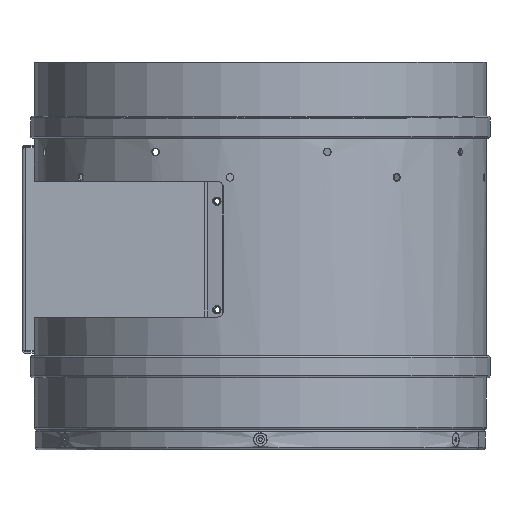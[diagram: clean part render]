
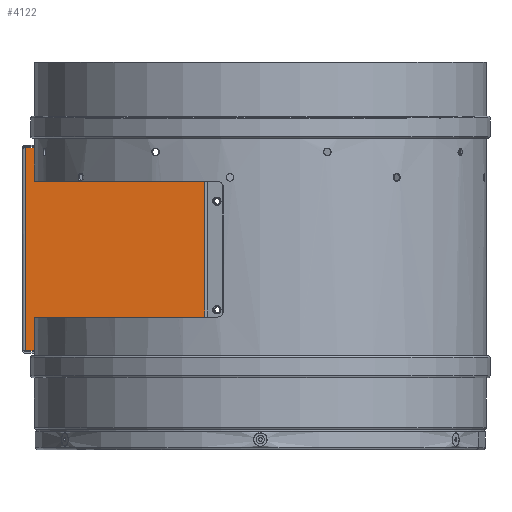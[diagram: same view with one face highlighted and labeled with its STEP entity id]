
A CAD part, left-side view. The second image highlights one B-rep face of the part: STEP entity #4122.
In plain terms, the highlighted planar face has unit normal (-1, 0, 0).
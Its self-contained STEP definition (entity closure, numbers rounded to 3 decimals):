
#1195 = DIRECTION ( 'NONE',  ( 0., 0., 1. ) ) ;
#1196 = CARTESIAN_POINT ( 'NONE',  ( -146.154, 125., -1278.722 ) ) ;
#1197 = DIRECTION ( 'NONE',  ( 0., -1., 0. ) ) ;
#1198 = DIRECTION ( 'NONE',  ( 0., 1., 0. ) ) ;
#1199 = DIRECTION ( 'NONE',  ( 0., 0., 1. ) ) ;
#1201 = CARTESIAN_POINT ( 'NONE',  ( -146.154, 129.9, -1278.722 ) ) ;
#1202 = DIRECTION ( 'NONE',  ( 0., 1., 0. ) ) ;
#1203 = CARTESIAN_POINT ( 'NONE',  ( -146.154, 30.77, -33.722 ) ) ;
#1207 = CARTESIAN_POINT ( 'NONE',  ( -146.154, 125., -52.422 ) ) ;
#1208 = CARTESIAN_POINT ( 'NONE',  ( -146.154, 125., 59.978 ) ) ;
#1212 = DIRECTION ( 'NONE',  ( 0., 0., -1. ) ) ;
#1213 = CARTESIAN_POINT ( 'NONE',  ( -146.154, 30.77, 41.278 ) ) ;
#1426 = AXIS2_PLACEMENT_3D ( 'NONE', #12834, #11787, #11788 ) ;
#2101 = EDGE_CURVE ( 'NONE', #5656, #8735, #11386, .T. ) ;
#2103 = EDGE_CURVE ( 'NONE', #8745, #5656, #11392, .T. ) ;
#2475 = LINE ( 'NONE', #1207, #2488 ) ;
#2480 = LINE ( 'NONE', #1213, #2482 ) ;
#2481 = LINE ( 'NONE', #1203, #2484 ) ;
#2482 = VECTOR ( 'NONE', #1212, 1000. ) ;
#2483 = LINE ( 'NONE', #1201, #2486 ) ;
#2484 = VECTOR ( 'NONE', #1202, 1000. ) ;
#2485 = LINE ( 'NONE', #1208, #2490 ) ;
#2486 = VECTOR ( 'NONE', #1199, 1000. ) ;
#2488 = VECTOR ( 'NONE', #1198, 1000. ) ;
#2489 = LINE ( 'NONE', #1196, #2492 ) ;
#2490 = VECTOR ( 'NONE', #1197, 1000. ) ;
#2492 = VECTOR ( 'NONE', #1195, 1000. ) ;
#4122 = ADVANCED_FACE ( 'NONE', ( #11428 ), #12838, .F. ) ;
#4412 = ORIENTED_EDGE ( 'NONE', *, *, #15439, .F. ) ;
#4532 = ORIENTED_EDGE ( 'NONE', *, *, #2101, .T. ) ;
#4558 = ORIENTED_EDGE ( 'NONE', *, *, #15444, .T. ) ;
#4561 = ORIENTED_EDGE ( 'NONE', *, *, #15440, .F. ) ;
#4595 = ORIENTED_EDGE ( 'NONE', *, *, #15441, .F. ) ;
#4627 = ORIENTED_EDGE ( 'NONE', *, *, #2103, .T. ) ;
#4657 = ORIENTED_EDGE ( 'NONE', *, *, #15443, .F. ) ;
#4690 = ORIENTED_EDGE ( 'NONE', *, *, #15442, .F. ) ;
#5195 = EDGE_LOOP ( 'NONE', ( #4595, #4690, #4558, #4561, #4412, #4627, #4532, #4657 ) ) ;
#5484 = VERTEX_POINT ( 'NONE', #9311 ) ;
#5656 = VERTEX_POINT ( 'NONE', #9459 ) ;
#8509 = VERTEX_POINT ( 'NONE', #9502 ) ;
#8643 = VERTEX_POINT ( 'NONE', #9663 ) ;
#8735 = VERTEX_POINT ( 'NONE', #9124 ) ;
#8745 = VERTEX_POINT ( 'NONE', #9598 ) ;
#8773 = VERTEX_POINT ( 'NONE', #9546 ) ;
#8888 = VERTEX_POINT ( 'NONE', #9428 ) ;
#9124 = CARTESIAN_POINT ( 'NONE',  ( -146.154, 125., 59.978 ) ) ;
#9311 = CARTESIAN_POINT ( 'NONE',  ( -146.154, 30.77, -33.722 ) ) ;
#9428 = CARTESIAN_POINT ( 'NONE',  ( -146.154, 125., -33.722 ) ) ;
#9459 = CARTESIAN_POINT ( 'NONE',  ( -146.154, 125., 41.278 ) ) ;
#9502 = CARTESIAN_POINT ( 'NONE',  ( -146.154, 125., -52.422 ) ) ;
#9546 = CARTESIAN_POINT ( 'NONE',  ( -146.154, 129.9, -52.422 ) ) ;
#9598 = CARTESIAN_POINT ( 'NONE',  ( -146.154, 30.77, 41.278 ) ) ;
#9663 = CARTESIAN_POINT ( 'NONE',  ( -146.154, 129.9, 59.978 ) ) ;
#9876 = CARTESIAN_POINT ( 'NONE',  ( -146.154, 125., -1278.722 ) ) ;
#10057 = DIRECTION ( 'NONE',  ( 0., 0., 1. ) ) ;
#10093 = DIRECTION ( 'NONE',  ( 0., 1., 0. ) ) ;
#10095 = CARTESIAN_POINT ( 'NONE',  ( -146.154, 30.77, 41.278 ) ) ;
#11386 = LINE ( 'NONE', #9876, #11391 ) ;
#11391 = VECTOR ( 'NONE', #10057, 1000. ) ;
#11392 = LINE ( 'NONE', #10095, #11395 ) ;
#11395 = VECTOR ( 'NONE', #10093, 1000. ) ;
#11428 = FACE_OUTER_BOUND ( 'NONE', #5195, .T. ) ;
#11787 = DIRECTION ( 'NONE',  ( 1., 0., 0. ) ) ;
#11788 = DIRECTION ( 'NONE',  ( 0., 0., -1. ) ) ;
#12834 = CARTESIAN_POINT ( 'NONE',  ( -146.154, 125., -1278.722 ) ) ;
#12838 = PLANE ( 'NONE',  #1426 ) ;
#15439 = EDGE_CURVE ( 'NONE', #8745, #5484, #2480, .T. ) ;
#15440 = EDGE_CURVE ( 'NONE', #5484, #8888, #2481, .T. ) ;
#15441 = EDGE_CURVE ( 'NONE', #8773, #8643, #2483, .T. ) ;
#15442 = EDGE_CURVE ( 'NONE', #8509, #8773, #2475, .T. ) ;
#15443 = EDGE_CURVE ( 'NONE', #8643, #8735, #2485, .T. ) ;
#15444 = EDGE_CURVE ( 'NONE', #8509, #8888, #2489, .T. ) ;
